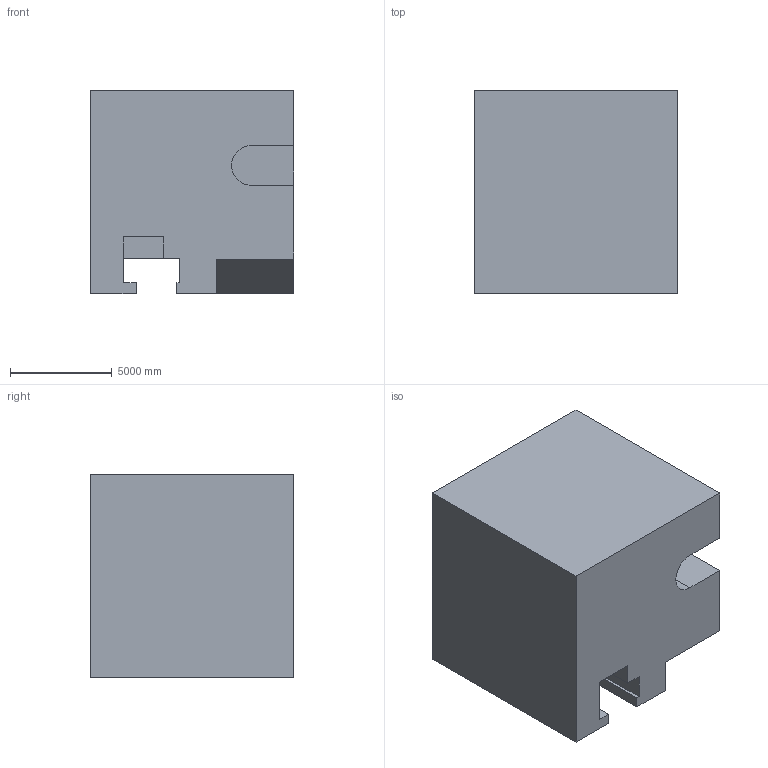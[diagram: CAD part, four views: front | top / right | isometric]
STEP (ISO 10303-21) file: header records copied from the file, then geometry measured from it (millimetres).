
FILE_DESCRIPTION (( 'STEP AP203' ), '1' );
FILE_NAME ('1587.STEP', '2022-08-18T15:59:02', ( 'user' ), ( '' ), 'SwSTEP 2.0', 'SolidWorks 2021', '' );
FILE_SCHEMA (( 'CONFIG_CONTROL_DESIGN' ));
Length unit declared in the file: centimetre
Products named in the file (1): 1587
Bounding box: 10000 x 10000 x 10000 mm (x, y, z)
Volume: 888012346503.2 mm3; surface area: 699941553.6 mm2
Topology: 1 solids, 1 shells, 28 faces, 78 edges, 52 vertices
Faces by surface type: plane 25, cylinder 3
Entity records: 965 total; most frequent: CARTESIAN_POINT 159, ORIENTED_EDGE 156, DIRECTION 142, EDGE_CURVE 78, VECTOR 72, LINE 72, VERTEX_POINT 52, AXIS2_PLACEMENT_3D 35
